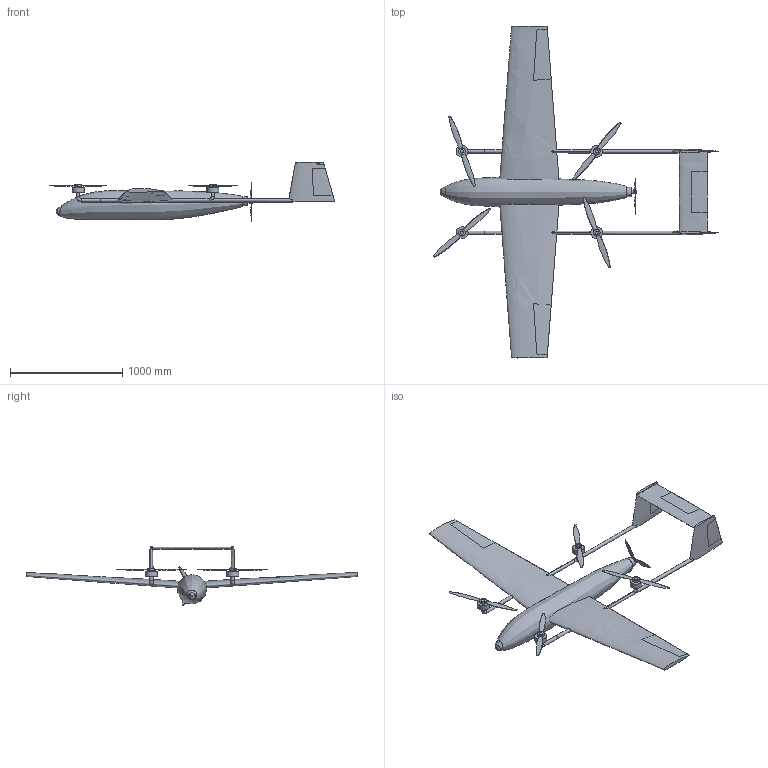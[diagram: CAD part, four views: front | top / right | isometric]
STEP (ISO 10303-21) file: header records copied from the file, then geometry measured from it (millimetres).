
FILE_DESCRIPTION(/* description */ (''),/* implementation_level */ '2;1');
FILE_NAME(/* name */ 'Assembly UAV.step',/* time_stamp */ '2026-10-11T15:41:09+05:30',/* author */ (''),/* organization */ (''),/* preprocessor_version */ 'ST-DEVELOPER v20.2',/* originating_system */ 'Autodesk Translation Framework v15.15.0.0',/* authorisation */ '');
FILE_SCHEMA (('AUTOMOTIVE_DESIGN { 1 0 10303 214 3 1 1 }'));
Length unit declared in the file: centimetre
Products named in the file (5): 2026-10-11-12-14-10-978; 2026-10-11-11-43-47-467; 2026-10-11-03-12-16-874; 2026-10-11-00-10-32-398; 2026-10-11-14-37-22-747
Assembly tree (7 placements, depth 2):
  2026-10-11-12-14-10-978
    2026-10-11-11-43-47-467  x4
    2026-10-11-03-12-16-874
    2026-10-11-00-10-32-398
    2026-10-11-14-37-22-747
Bounding box: 2545.27 x 2958 x 530.1 mm (x, y, z)
Volume: 134445204.1 mm3; surface area: 6551883.1 mm2
Topology: 19 solids, 19 shells, 200 faces, 391 edges, 255 vertices
Faces by surface type: plane 107, cylinder 47, bspline 42, torus 4
Full cylindrical faces by diameter (mm): 10 x4, 29 x4, 30 x21, 36 x1, 60 x8, 81.4 x1, 106.8 x4
Entity records: 24408 total; most frequent: CARTESIAN_POINT 21174, ORIENTED_EDGE 650, DIRECTION 551, EDGE_CURVE 325, AXIS2_PLACEMENT_3D 225, VERTEX_POINT 213, EDGE_LOOP 188, FACE_OUTER_BOUND 158
